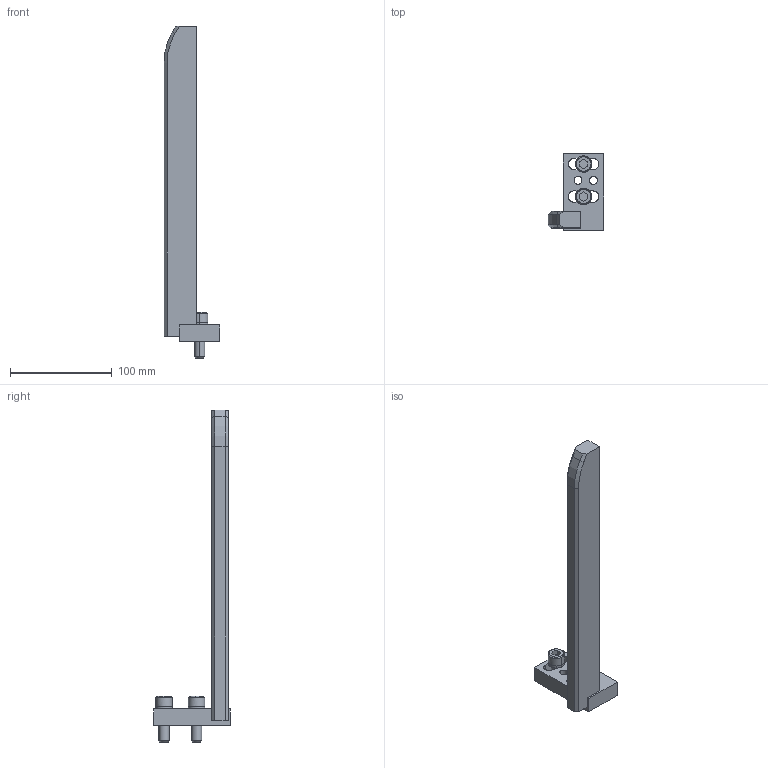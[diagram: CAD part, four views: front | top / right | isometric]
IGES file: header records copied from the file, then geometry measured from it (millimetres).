
Global section: file name: E:\UnigraphicsGraphicData\MISUMI_PRESS-PARTS\IGES\3d_ngnbl-310-20-m10_01549_r00.igs; native system: NX V5.0; preprocessor: UGS NX IGES V5.0; author: MISUMI; date: 20110105.162057; units: millimetre
Bounding box: 55 x 75 x 326.5 mm (x, y, z)
Surface area: 46012.4 mm2 (no closed solid volume)
Topology: 0 solids, 0 shells, 104 faces, 665 edges, 665 vertices
Faces by surface type: bspline 104
